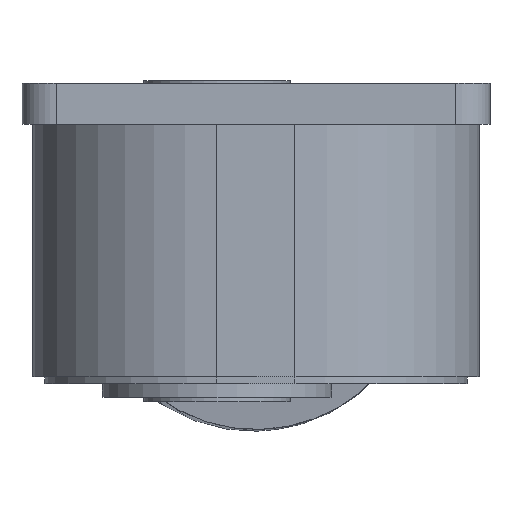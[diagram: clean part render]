
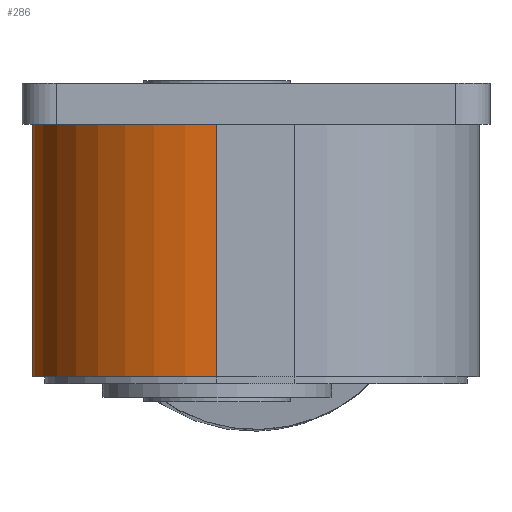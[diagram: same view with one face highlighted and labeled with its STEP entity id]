
A CAD part, left-side view. The second image highlights one B-rep face of the part: STEP entity #286.
In plain terms, the highlighted cylindrical face has radius 80.5 mm (diameter 161 mm), a partial arc.
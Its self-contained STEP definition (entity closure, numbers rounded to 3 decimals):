
#286 = ADVANCED_FACE( '', ( #866 ), #867, .T. );
#866 = FACE_OUTER_BOUND( '', #2089, .T. );
#867 = CYLINDRICAL_SURFACE( '', #2090, 80.5 );
#2089 = EDGE_LOOP( '', ( #3479, #3480, #3481, #3482 ) );
#2090 = AXIS2_PLACEMENT_3D( '', #3483, #3484, #3485 );
#3479 = ORIENTED_EDGE( '', *, *, #8054, .F. );
#3480 = ORIENTED_EDGE( '', *, *, #8055, .F. );
#3481 = ORIENTED_EDGE( '', *, *, #8006, .T. );
#3482 = ORIENTED_EDGE( '', *, *, #8056, .T. );
#3483 = CARTESIAN_POINT( '', ( -128., 0., 0. ) );
#3484 = DIRECTION( '', ( -1., 0., 0. ) );
#3485 = DIRECTION( '', ( 0., 0., -1. ) );
#8006 = EDGE_CURVE( '', #9547, #9545, #9548, .T. );
#8054 = EDGE_CURVE( '', #9640, #9641, #9642, .T. );
#8055 = EDGE_CURVE( '', #9547, #9640, #9643, .T. );
#8056 = EDGE_CURVE( '', #9545, #9641, #9644, .T. );
#9545 = VERTEX_POINT( '', #12044 );
#9547 = VERTEX_POINT( '', #12047 );
#9548 = CIRCLE( '', #12048, 80.5 );
#9640 = VERTEX_POINT( '', #12158 );
#9641 = VERTEX_POINT( '', #12159 );
#9642 = CIRCLE( '', #12160, 80.5 );
#9643 = LINE( '', #12161, #12162 );
#9644 = LINE( '', #12163, #12164 );
#12044 = CARTESIAN_POINT( '', ( -128., 0., 80.5 ) );
#12047 = CARTESIAN_POINT( '', ( -128., 80.5, 0. ) );
#12048 = AXIS2_PLACEMENT_3D( '', #15369, #15370, #15371 );
#12158 = CARTESIAN_POINT( '', ( -18., 80.5, 0. ) );
#12159 = CARTESIAN_POINT( '', ( -18., 0., 80.5 ) );
#12160 = AXIS2_PLACEMENT_3D( '', #15477, #15478, #15479 );
#12161 = CARTESIAN_POINT( '', ( -128., 80.5, 0. ) );
#12162 = VECTOR( '', #15480, 1000. );
#12163 = CARTESIAN_POINT( '', ( -128., 0., 80.5 ) );
#12164 = VECTOR( '', #15481, 1000. );
#15369 = CARTESIAN_POINT( '', ( -128., 0., 0. ) );
#15370 = DIRECTION( '', ( 1., 0., 0. ) );
#15371 = DIRECTION( '', ( 0., 0., -1. ) );
#15477 = CARTESIAN_POINT( '', ( -18., 0., 0. ) );
#15478 = DIRECTION( '', ( 1., 0., 0. ) );
#15479 = DIRECTION( '', ( 0., 0., -1. ) );
#15480 = DIRECTION( '', ( 1., 0., 0. ) );
#15481 = DIRECTION( '', ( 1., 0., 0. ) );
